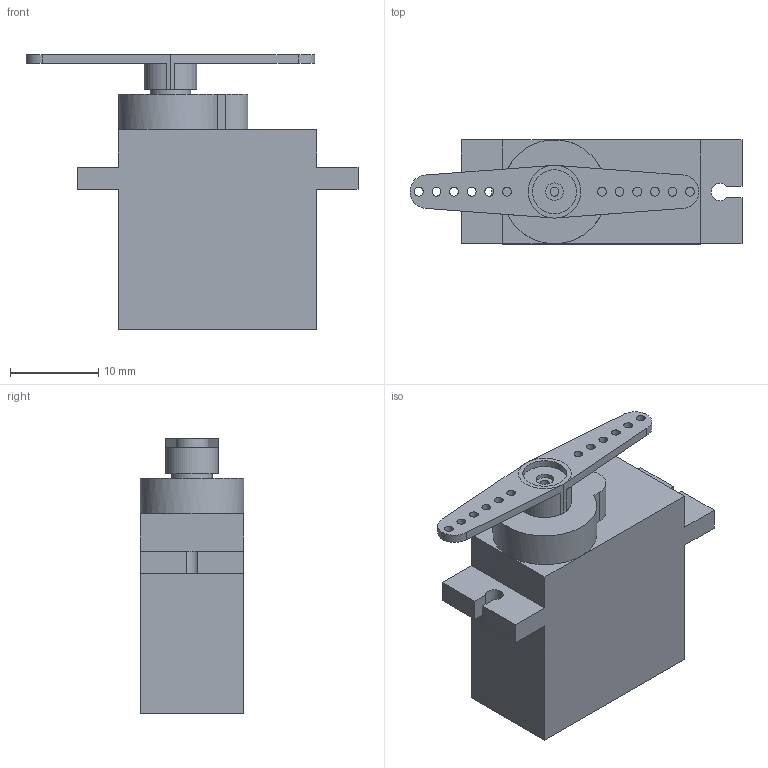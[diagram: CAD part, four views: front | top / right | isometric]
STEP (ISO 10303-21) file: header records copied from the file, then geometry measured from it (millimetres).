
FILE_DESCRIPTION(/* description */ (''),/* implementation_level */ '2;1');
FILE_NAME(/* name */ 'Top of SG90_v2.tmp.step',/* time_stamp */ '2026-11-01T13:12:04+02:00',/* author */ (''),/* organization */ (''),/* preprocessor_version */ 'ST-DEVELOPER v20.2',/* originating_system */ 'Autodesk Translation Framework v15.15.0.0',/* authorisation */ '');
FILE_SCHEMA (('AUTOMOTIVE_DESIGN { 1 0 10303 214 3 1 1 }'));
Length unit declared in the file: millimetre
Products named in the file (4): Top of SG90; Servo SG90; base; gear
Assembly tree (3 placements, depth 3):
  Top of SG90
    Servo SG90
      base
      gear
Bounding box: 37.7 x 11.8 x 31.2 mm (x, y, z)
Volume: 7035.7 mm3; surface area: 3271.9 mm2
Topology: 3 solids, 3 shells, 71 faces, 174 edges, 115 vertices
Faces by surface type: plane 41, cylinder 30
Full cylindrical faces by diameter (mm): 1 x13, 2 x2, 4.6 x3, 5 x2
Entity records: 2267 total; most frequent: DIRECTION 393, CARTESIAN_POINT 367, ORIENTED_EDGE 348, EDGE_CURVE 174, AXIS2_PLACEMENT_3D 141, VERTEX_POINT 115, LINE 111, VECTOR 111
